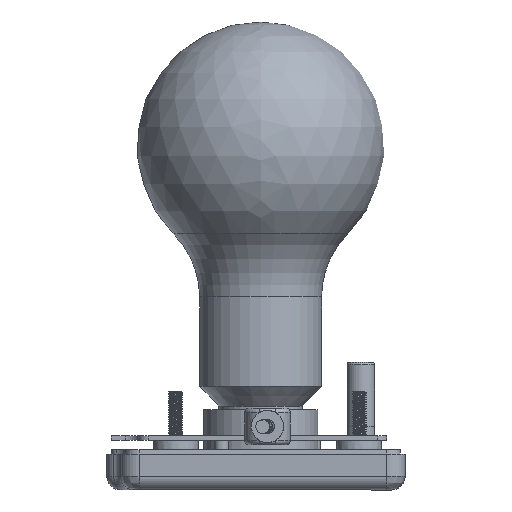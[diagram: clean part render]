
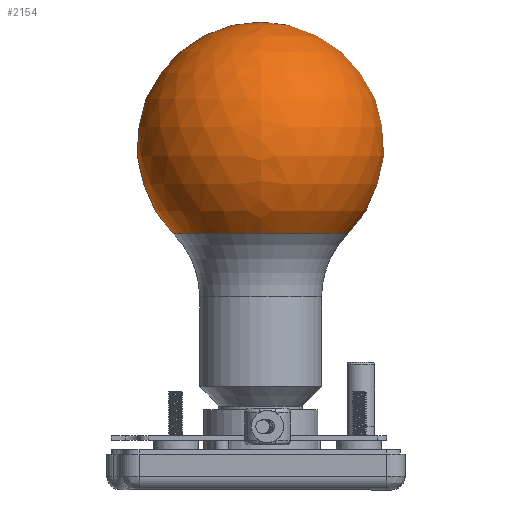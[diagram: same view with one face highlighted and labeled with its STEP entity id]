
A CAD part, front view. The second image highlights one B-rep face of the part: STEP entity #2154.
In plain terms, the highlighted spherical face has radius 27 mm.
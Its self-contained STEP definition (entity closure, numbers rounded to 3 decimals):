
#439=SPHERICAL_SURFACE('',#11595,27.);
#1540=CIRCLE('',#11594,19.038);
#2154=ADVANCED_FACE('',(#3020),#439,.T.);
#3020=FACE_OUTER_BOUND('',#3772,.T.);
#3772=EDGE_LOOP('',(#6574));
#6574=ORIENTED_EDGE('',*,*,#8925,.T.);
#7524=VERTEX_POINT('',#52094);
#8925=EDGE_CURVE('',#7524,#7524,#1540,.T.);
#11594=AXIS2_PLACEMENT_3D('',#52093,#14599,#14600);
#11595=AXIS2_PLACEMENT_3D('',#52095,#14601,#14602);
#14599=DIRECTION('',(0.,0.,1.));
#14600=DIRECTION('',(1.,0.,0.));
#14601=DIRECTION('',(0.,0.,1.));
#14602=DIRECTION('',(0.,-1.,0.));
#52093=CARTESIAN_POINT('',(-1.5,-0.004,52.854));
#52094=CARTESIAN_POINT('',(17.538,-0.004,52.854));
#52095=CARTESIAN_POINT('',(-1.5,-0.004,72.));
